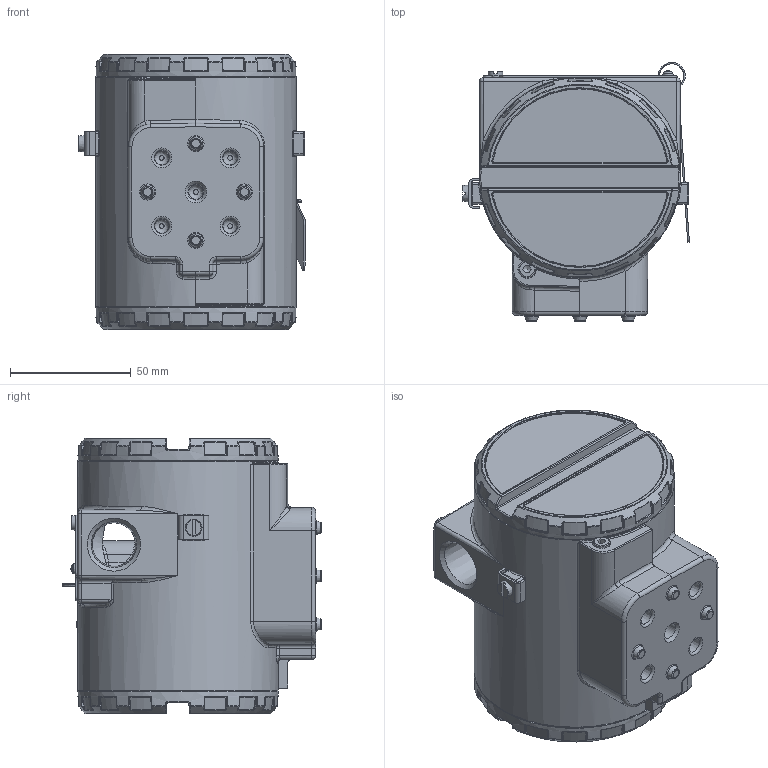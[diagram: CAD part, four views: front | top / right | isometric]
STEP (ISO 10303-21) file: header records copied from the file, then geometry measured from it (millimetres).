
FILE_DESCRIPTION(/* description */ (''),/* implementation_level */ '2;1');
FILE_NAME(/* name */ 'F:\Area\Desenvolvimento_2\Projects\Sensor\projetos\TT30X\FI30X sem suporte.stp',/* time_stamp */ '2023-02-01T09:57:35-03:00',/* author */ ('inventor02'),/* organization */ (''),/* preprocessor_version */ 'ST-DEVELOPER v17',/* originating_system */ 'Autodesk Inventor 2019',/* authorisation */ '');
FILE_SCHEMA (('CONFIG_CONTROL_DESIGN'));
Products named in the file (20): carcaça com tampas; carcaça TT sem texto para 3d; Subconjunto tampa com visor aluminio; tampa pintada; VIDRO DO VISOR; oring 41x1 vidro tampa; Trava do vidro da tampa com visor; trava do vidro VH256; Subconjunto tampa sem visor-aluminio; tampa cega 300 pintada p0; 00034775-0; Subconjunto plaqueta 300; Plaqueta transmissor; Parafuso da Plaqueta; Rebite da Plaqueta; 096-A-0169-03; 101-A-0502-01; Chapa aterramento externo; ISO 1207 - M4 x 8; ANSI B18.3.1M - M4x0,7 x 8
Assembly tree (21 placements, depth 3):
  carcaça com tampas
    carcaça TT sem texto para 3d
    Subconjunto tampa com visor aluminio
      tampa pintada
      VIDRO DO VISOR
      oring 41x1 vidro tampa
      Trava do vidro da tampa com visor
      trava do vidro VH256
      00034775-0
    Subconjunto tampa sem visor-aluminio
      tampa cega 300 pintada p0
      00034775-0
    Subconjunto plaqueta 300
      Plaqueta transmissor
      Parafuso da Plaqueta
      Rebite da Plaqueta
      096-A-0169-03
      101-A-0502-01
    Chapa aterramento externo
    ISO 1207 - M4 x 8
    ANSI B18.3.1M - M4x0,7 x 8  x2
Bounding box: 93.95 x 107.33 x 114 mm (x, y, z)
Volume: 374002.9 mm3; surface area: 140192.9 mm2
Topology: 18 solids, 18 shells, 1649 faces, 3942 edges, 2313 vertices
Faces by surface type: bspline 502, cylinder 362, plane 296, torus 256, cone 142, sphere 91
Full cylindrical faces by diameter (mm): 2 x2, 2.1 x2, 2.459 x5, 2.642 x1, 2.7 x1, 3 x1, 3.242 x3, 3.571 x1, 4 x3, 4.3 x1, 4.4 x1, 6 x1, 6.2 x1, 6.647 x1, 7 x2, 7.087 x7, 7.6 x2, 18 x2, 42.6 x1, 45 x1, 65.6 x1, 65.8 x2, 68 x1, 72.5 x2, 74.5 x2, 74.76 x2, 76 x2, 77 x2, 83 x2
Entity records: 60390 total; most frequent: CARTESIAN_POINT 23977, ORIENTED_EDGE 7694, DIRECTION 7251, EDGE_CURVE 3847, AXIS2_PLACEMENT_3D 3173, VERTEX_POINT 2283, CIRCLE 1900, EDGE_LOOP 1704
